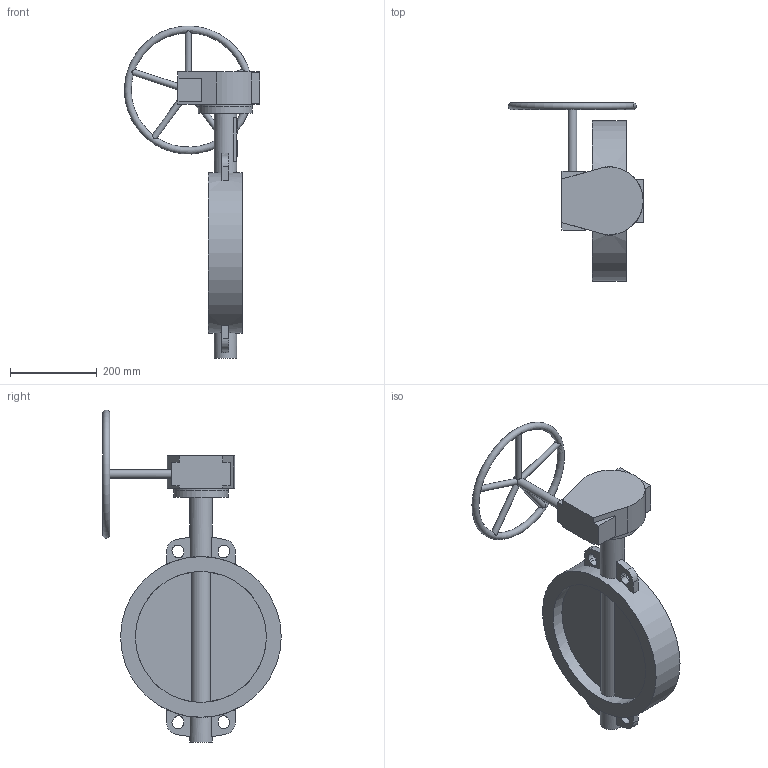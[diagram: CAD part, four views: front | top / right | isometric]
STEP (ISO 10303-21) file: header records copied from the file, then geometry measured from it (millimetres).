
FILE_DESCRIPTION(('STEP AP203'), '1');
FILE_NAME('Çàòâîð 017W.Z(÷óãóí) DN300 PN10_16 ðåäóêòîð', '', ('UNSPECIFIED'), ('UNSPECIFIED'), 'ASCON STEP Converter 1.6', 'ASCON Math Kernel', '');
FILE_SCHEMA(('CONFIG_CONTROL_DESIGN'));
Length unit declared in the file: millimetre
Bounding box: 311.48 x 411 x 764.48 mm (x, y, z)
Volume: 2232772.9 mm3; surface area: 639299 mm2
Topology: 1 solids, 2 shells, 848 faces, 2515 edges, 1622 vertices
Faces by surface type: cylinder 643, plane 204, torus 1
Full cylindrical faces by diameter (mm): 8.5 x4, 12 x4, 14 x5, 20 x2, 31.6 x1, 52 x2, 70 x1, 125 x2, 301.5 x2, 370 x1
Entity records: 38223 total; most frequent: CARTESIAN_POINT 7566, DIRECTION 5489, ORIENTED_EDGE 4902, EDGE_CURVE 2490, AXIS2_PLACEMENT_3D 2195, VERTEX_POINT 1621, CIRCLE 1346, LINE 1099
